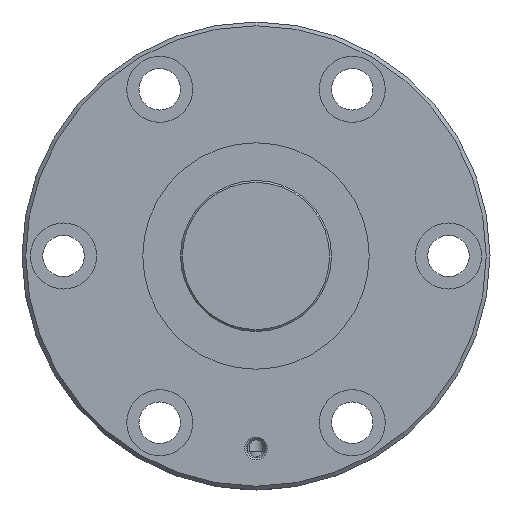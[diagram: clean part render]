
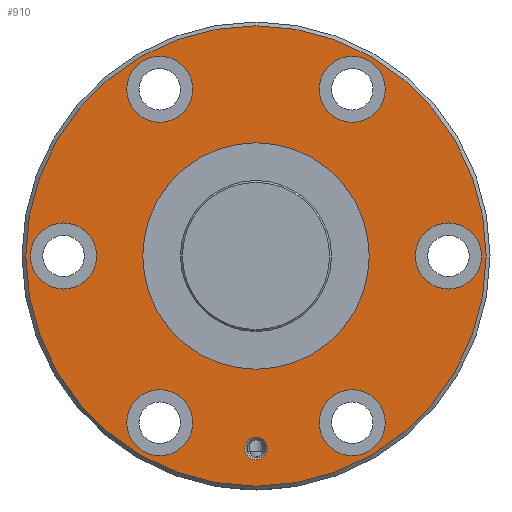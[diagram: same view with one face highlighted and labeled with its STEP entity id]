
A CAD part, left-side view. The second image highlights one B-rep face of the part: STEP entity #910.
In plain terms, the highlighted planar face has unit normal (-1, 0, 0).
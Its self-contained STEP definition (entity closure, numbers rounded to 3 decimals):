
#93=PLANE('',#1019);
#149=ORIENTED_EDGE('',*,*,#341,.T.);
#150=ORIENTED_EDGE('',*,*,#342,.T.);
#151=ORIENTED_EDGE('',*,*,#343,.T.);
#152=ORIENTED_EDGE('',*,*,#344,.T.);
#153=ORIENTED_EDGE('',*,*,#345,.T.);
#154=ORIENTED_EDGE('',*,*,#346,.T.);
#155=ORIENTED_EDGE('',*,*,#347,.T.);
#156=ORIENTED_EDGE('',*,*,#348,.T.);
#157=ORIENTED_EDGE('',*,*,#340,.F.);
#340=EDGE_CURVE('',#441,#441,#525,.T.);
#341=EDGE_CURVE('',#442,#442,#526,.T.);
#342=EDGE_CURVE('',#443,#443,#527,.F.);
#343=EDGE_CURVE('',#444,#444,#528,.T.);
#344=EDGE_CURVE('',#445,#445,#529,.T.);
#345=EDGE_CURVE('',#446,#446,#530,.T.);
#346=EDGE_CURVE('',#447,#447,#531,.T.);
#347=EDGE_CURVE('',#448,#448,#532,.T.);
#348=EDGE_CURVE('',#449,#449,#533,.T.);
#441=VERTEX_POINT('',#1524);
#442=VERTEX_POINT('',#1527);
#443=VERTEX_POINT('',#1529);
#444=VERTEX_POINT('',#1531);
#445=VERTEX_POINT('',#1533);
#446=VERTEX_POINT('',#1535);
#447=VERTEX_POINT('',#1537);
#448=VERTEX_POINT('',#1539);
#449=VERTEX_POINT('',#1541);
#525=CIRCLE('',#1018,61.);
#526=CIRCLE('',#1020,30.);
#527=CIRCLE('',#1021,8.75);
#528=CIRCLE('',#1022,3.);
#529=CIRCLE('',#1023,8.75);
#530=CIRCLE('',#1024,8.75);
#531=CIRCLE('',#1025,8.75);
#532=CIRCLE('',#1026,8.75);
#533=CIRCLE('',#1027,8.75);
#607=EDGE_LOOP('',(#149));
#608=EDGE_LOOP('',(#150));
#609=EDGE_LOOP('',(#151));
#610=EDGE_LOOP('',(#152));
#611=EDGE_LOOP('',(#153));
#612=EDGE_LOOP('',(#154));
#613=EDGE_LOOP('',(#155));
#614=EDGE_LOOP('',(#156));
#615=EDGE_LOOP('',(#157));
#749=FACE_BOUND('',#607,.T.);
#750=FACE_BOUND('',#608,.T.);
#751=FACE_BOUND('',#609,.T.);
#752=FACE_BOUND('',#610,.T.);
#753=FACE_BOUND('',#611,.T.);
#754=FACE_BOUND('',#612,.T.);
#755=FACE_BOUND('',#613,.T.);
#756=FACE_BOUND('',#614,.T.);
#757=FACE_BOUND('',#615,.T.);
#910=ADVANCED_FACE('',(#749,#750,#751,#752,#753,#754,#755,#756,#757),#93,
 .T.);
#1018=AXIS2_PLACEMENT_3D('',#1523,#1190,#1191);
#1019=AXIS2_PLACEMENT_3D('',#1525,#1192,#1193);
#1020=AXIS2_PLACEMENT_3D('',#1526,#1194,#1195);
#1021=AXIS2_PLACEMENT_3D('',#1528,#1196,#1197);
#1022=AXIS2_PLACEMENT_3D('',#1530,#1198,#1199);
#1023=AXIS2_PLACEMENT_3D('',#1532,#1200,#1201);
#1024=AXIS2_PLACEMENT_3D('',#1534,#1202,#1203);
#1025=AXIS2_PLACEMENT_3D('',#1536,#1204,#1205);
#1026=AXIS2_PLACEMENT_3D('',#1538,#1206,#1207);
#1027=AXIS2_PLACEMENT_3D('',#1540,#1208,#1209);
#1190=DIRECTION('',(1.,0.,0.));
#1191=DIRECTION('',(0.,0.,-1.));
#1192=DIRECTION('',(-1.,0.,0.));
#1193=DIRECTION('',(0.,0.,1.));
#1194=DIRECTION('',(1.,0.,0.));
#1195=DIRECTION('',(0.,0.,-1.));
#1196=DIRECTION('',(-1.,0.,0.));
#1197=DIRECTION('',(0.,0.,1.));
#1198=DIRECTION('',(1.,0.,0.));
#1199=DIRECTION('',(0.,0.,-1.));
#1200=DIRECTION('',(1.,0.,0.));
#1201=DIRECTION('',(0.,0.,-1.));
#1202=DIRECTION('',(1.,0.,0.));
#1203=DIRECTION('',(0.,0.,-1.));
#1204=DIRECTION('',(1.,0.,0.));
#1205=DIRECTION('',(0.,0.,-1.));
#1206=DIRECTION('',(1.,0.,0.));
#1207=DIRECTION('',(0.,0.,-1.));
#1208=DIRECTION('',(1.,0.,0.));
#1209=DIRECTION('',(0.,0.,-1.));
#1523=CARTESIAN_POINT('',(0.,0.,0.));
#1524=CARTESIAN_POINT('',(0.,0.,-61.));
#1525=CARTESIAN_POINT('',(0.,61.,0.));
#1526=CARTESIAN_POINT('',(0.,0.,0.));
#1527=CARTESIAN_POINT('',(0.,0.,-30.));
#1528=CARTESIAN_POINT('',(0.,51.,0.));
#1529=CARTESIAN_POINT('',(0.,51.,8.75));
#1530=CARTESIAN_POINT('',(0.,0.,-51.));
#1531=CARTESIAN_POINT('',(0.,0.,-54.));
#1532=CARTESIAN_POINT('',(0.,-51.,0.));
#1533=CARTESIAN_POINT('',(0.,-51.,-8.75));
#1534=CARTESIAN_POINT('',(0.,25.5,44.167));
#1535=CARTESIAN_POINT('',(0.,25.5,35.417));
#1536=CARTESIAN_POINT('',(0.,-25.5,-44.167));
#1537=CARTESIAN_POINT('',(0.,-25.5,-52.917));
#1538=CARTESIAN_POINT('',(0.,-25.5,44.167));
#1539=CARTESIAN_POINT('',(0.,-25.5,35.417));
#1540=CARTESIAN_POINT('',(0.,25.5,-44.167));
#1541=CARTESIAN_POINT('',(0.,25.5,-52.917));
